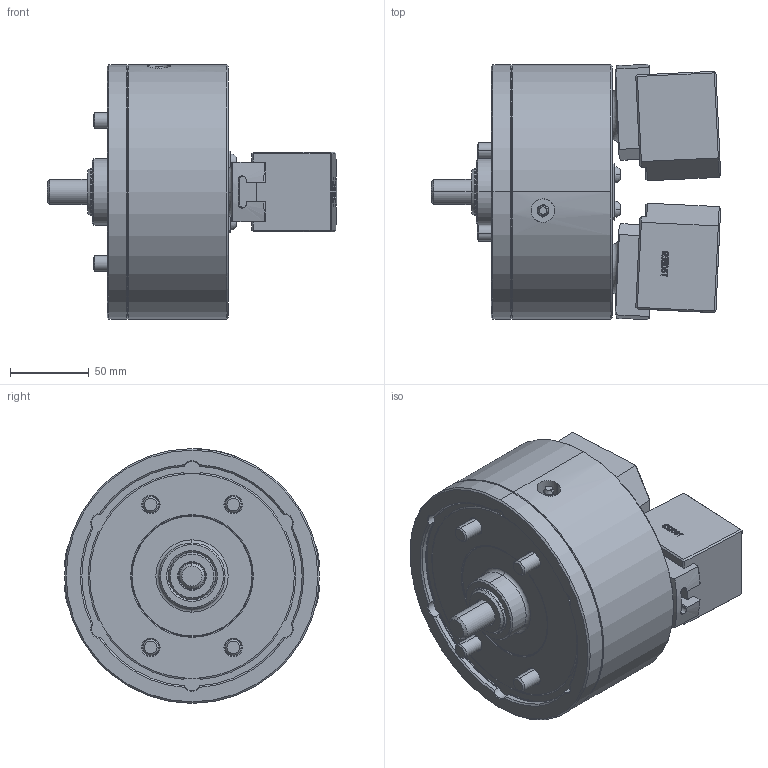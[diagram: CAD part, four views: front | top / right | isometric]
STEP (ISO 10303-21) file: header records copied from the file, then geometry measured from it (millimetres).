
FILE_DESCRIPTION (( 'STEP AP214' ), '1' );
FILE_NAME ('PWT06_UC_OD.STEP', '2019-10-21T02:25:50', ( '' ), ( '' ), 'SwSTEP 2.0', 'SolidWorks 2017', '' );
FILE_SCHEMA (( 'AUTOMOTIVE_DESIGN' ));
Length unit declared in the file: millimetre
Products named in the file (5): 結合_OD; 0030110016; 61P422013; 61P332343; PWT06_UC_OD
Assembly tree (9 placements, depth 2):
  PWT06_UC_OD
    61P332343  x2
    61P422013  x2
    0030110016  x4
    結合_OD
Bounding box: 184.03 x 162.36 x 162 mm (x, y, z)
Volume: 1869728.4 mm3; surface area: 195920.4 mm2
Topology: 9 solids, 10 shells, 1692 faces, 4220 edges, 2665 vertices
Faces by surface type: plane 813, bspline 329, cone 262, cylinder 228, torus 56, sphere 4
Entity records: 51750 total; most frequent: CARTESIAN_POINT 19990, ORIENTED_EDGE 6970, DIRECTION 5703, EDGE_CURVE 3485, VERTEX_POINT 2214, LINE 1919, VECTOR 1919, AXIS2_PLACEMENT_3D 1892
